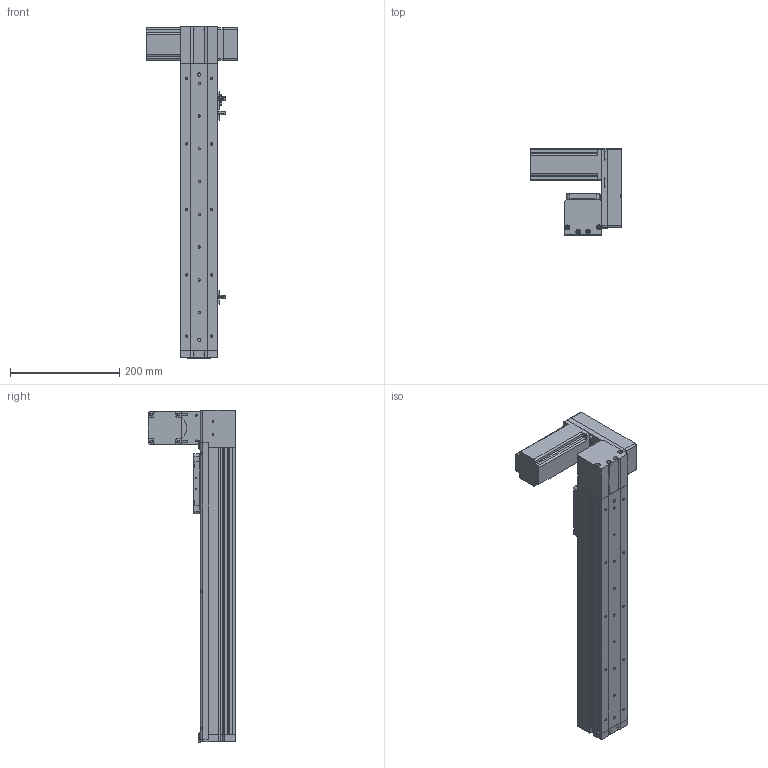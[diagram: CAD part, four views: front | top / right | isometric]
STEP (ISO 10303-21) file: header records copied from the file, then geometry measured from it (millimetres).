
FILE_DESCRIPTION (( 'STEP AP214' ), '1' );
FILE_NAME ('KSD68BS-S350-MLU-CR.STEP', '2019-11-07T07:18:21', ( '微软用户' ), ( '微软中国' ), 'SwSTEP 2.0', 'SolidWorks 2014', '' );
FILE_SCHEMA (( 'AUTOMOTIVE_DESIGN' ));
Length unit declared in the file: millimetre
Products named in the file (14): KSD68BS 350行程盖板全封闭; KSD68BS-S350-MLU-CR; 68宽单导轨全封闭丝杆传动安装板1防护罩; 68遵裔啣揤啣1; KSD68BS 350行程侧板全封闭; 68宽单导轨全封闭同步带端板; 68单导轨全封闭同步带电机座左; 68单导轨全封闭同步带安装板; 悵誘欶奻狟殏; 68宽马达安装板连板上折同步带; 感应片68宽全封闭; U倰嫖萇EEㄜSX672; 台达ECMA－C20604AS伺服电机（400W); KSD68BS 350行程底板全封闭
Assembly tree (17 placements, depth 2):
  KSD68BS-S350-MLU-CR
    KSD68BS 350行程底板全封闭
    台达ECMA－C20604AS伺服电机（400W)
    U倰嫖萇EEㄜSX672  x3
    感应片68宽全封闭
    68宽马达安装板连板上折同步带
    悵誘欶奻狟殏
    68单导轨全封闭同步带安装板
    68单导轨全封闭同步带电机座左
    68宽单导轨全封闭同步带端板
    KSD68BS 350行程侧板全封闭  x2
    68宽单导轨全封闭丝杆传动安装板1防护罩
    68遵裔啣揤啣1  x2
    KSD68BS 350行程盖板全封闭
Bounding box: 167.2 x 159.5 x 608.1 mm (x, y, z)
Volume: 1661209.6 mm3; surface area: 558395 mm2
Topology: 18 solids, 18 shells, 1371 faces, 3853 edges, 2480 vertices
Faces by surface type: plane 621, cylinder 618, cone 132
Entity records: 42399 total; most frequent: CARTESIAN_POINT 7139, DIRECTION 6416, ORIENTED_EDGE 6150, EDGE_CURVE 3075, AXIS2_PLACEMENT_3D 2281, VERTEX_POINT 2018, LINE 1854, VECTOR 1854
